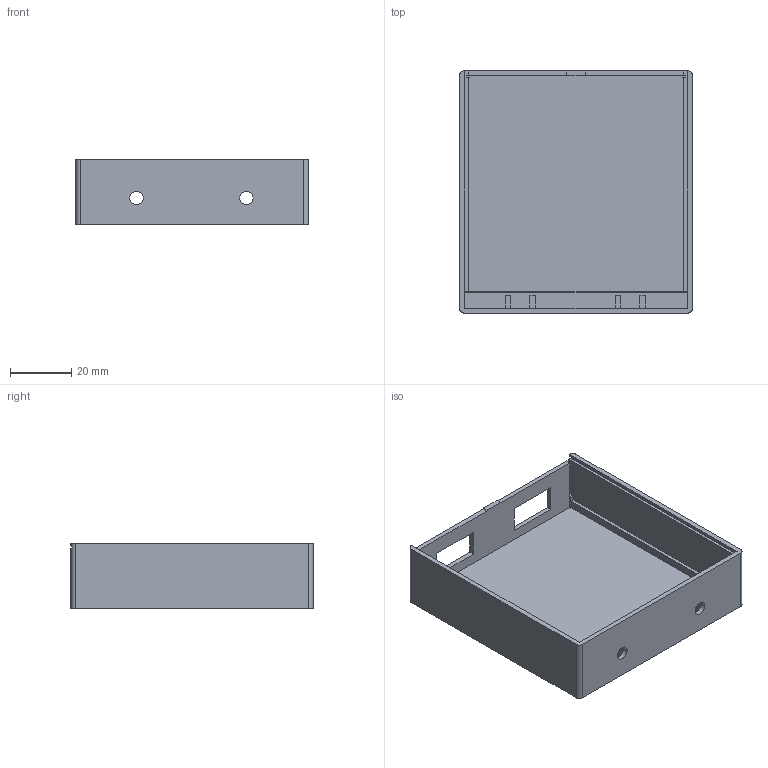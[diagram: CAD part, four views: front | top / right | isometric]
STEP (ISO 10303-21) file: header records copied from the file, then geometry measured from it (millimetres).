
FILE_DESCRIPTION(('Open CASCADE Model'),'2;1');
FILE_NAME('Open CASCADE Shape Model','2026-11-04T10:48:45',('Author'),( 'Open CASCADE'),'Open CASCADE STEP processor 7.9','Open CASCADE 7.9' ,'Unknown');
FILE_SCHEMA(('AUTOMOTIVE_DESIGN { 1 0 10303 214 1 1 1 1 }'));
Length unit declared in the file: millimetre
Products named in the file (1): Open CASCADE STEP translator 7.9 9
Bounding box: 76.2 x 79.3 x 21.4 mm (x, y, z)
Volume: 19092.6 mm3; surface area: 25033 mm2
Topology: 1 solids, 1 shells, 98 faces, 286 edges, 190 vertices
Faces by surface type: plane 92, cylinder 6
Full cylindrical faces by diameter (mm): 4.4 x2
Entity records: 6847 total; most frequent: CARTESIAN_POINT 1322, DIRECTION 937, LINE 699, VECTOR 699, ORIENTED_EDGE 572, PCURVE 572, DEFINITIONAL_REPRESENTATION 572, EDGE_CURVE 286
